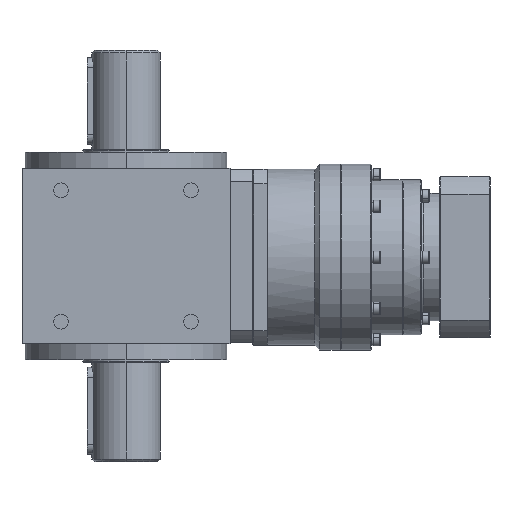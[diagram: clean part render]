
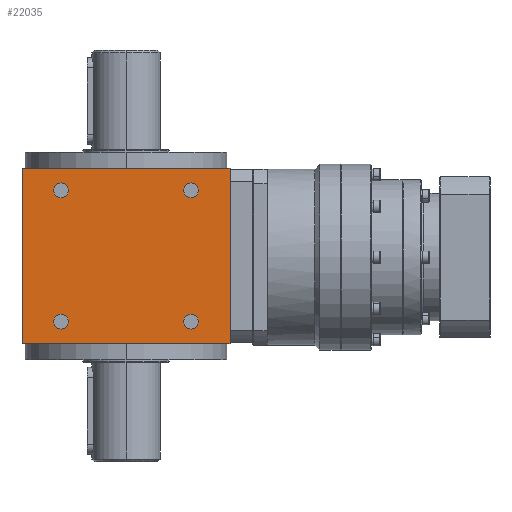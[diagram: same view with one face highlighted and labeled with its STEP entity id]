
A CAD part, left-side view. The second image highlights one B-rep face of the part: STEP entity #22035.
In plain terms, the highlighted planar face has unit normal (-1, 0, 0).
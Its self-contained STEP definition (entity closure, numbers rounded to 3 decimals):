
#460 = CIRCLE ( 'NONE', #41153, 6. ) ;
#860 = EDGE_CURVE ( 'NONE', #38967, #33082, #2213, .T. ) ;
#861 = ORIENTED_EDGE ( 'NONE', *, *, #26887, .F. ) ;
#1719 = VERTEX_POINT ( 'NONE', #48356 ) ;
#2213 = CIRCLE ( 'NONE', #8602, 6. ) ;
#2235 = CARTESIAN_POINT ( 'NONE',  ( -84., 58.5, -53. ) ) ;
#2293 = VECTOR ( 'NONE', #3459, 1000. ) ;
#2388 = VERTEX_POINT ( 'NONE', #3075 ) ;
#2501 = CARTESIAN_POINT ( 'NONE',  ( -84., 52.5, -53. ) ) ;
#2599 = ORIENTED_EDGE ( 'NONE', *, *, #19721, .T. ) ;
#2892 = DIRECTION ( 'NONE',  ( -1., 0., 0. ) ) ;
#3067 = DIRECTION ( 'NONE',  ( 0., -1., 0. ) ) ;
#3075 = CARTESIAN_POINT ( 'NONE',  ( -84., -58.5, 53. ) ) ;
#3097 = VECTOR ( 'NONE', #32382, 1000. ) ;
#3176 = LINE ( 'NONE', #17691, #3097 ) ;
#3332 = CARTESIAN_POINT ( 'NONE',  ( -84., -52.5, 53. ) ) ;
#3459 = DIRECTION ( 'NONE',  ( 0., 0., 1. ) ) ;
#3577 = DIRECTION ( 'NONE',  ( 0., -1., 0. ) ) ;
#4280 = CARTESIAN_POINT ( 'NONE',  ( -84., 0., -71. ) ) ;
#4565 = CARTESIAN_POINT ( 'NONE',  ( -84., -46.5, 53. ) ) ;
#5181 = DIRECTION ( 'NONE',  ( 1., 0., 0. ) ) ;
#5364 = CARTESIAN_POINT ( 'NONE',  ( -84., 52.5, 53. ) ) ;
#5378 = VERTEX_POINT ( 'NONE', #25313 ) ;
#5938 = DIRECTION ( 'NONE',  ( 1., 0., 0. ) ) ;
#6315 = AXIS2_PLACEMENT_3D ( 'NONE', #29256, #25053, #25795 ) ;
#7685 = EDGE_CURVE ( 'NONE', #12544, #1719, #9965, .T. ) ;
#8017 = ORIENTED_EDGE ( 'NONE', *, *, #29160, .T. ) ;
#8602 = AXIS2_PLACEMENT_3D ( 'NONE', #24900, #5181, #40123 ) ;
#8980 = CARTESIAN_POINT ( 'NONE',  ( -84., -46.5, -53. ) ) ;
#9070 = EDGE_LOOP ( 'NONE', ( #26934, #12296 ) ) ;
#9303 = EDGE_CURVE ( 'NONE', #2388, #39550, #460, .T. ) ;
#9965 = CIRCLE ( 'NONE', #26659, 6. ) ;
#12042 = CIRCLE ( 'NONE', #48701, 6. ) ;
#12296 = ORIENTED_EDGE ( 'NONE', *, *, #860, .T. ) ;
#12544 = VERTEX_POINT ( 'NONE', #17492 ) ;
#12561 = CARTESIAN_POINT ( 'NONE',  ( -84., -52.5, -53. ) ) ;
#12749 = AXIS2_PLACEMENT_3D ( 'NONE', #13390, #2892, #36107 ) ;
#13077 = DIRECTION ( 'NONE',  ( 1., 0., 0. ) ) ;
#13390 = CARTESIAN_POINT ( 'NONE',  ( -84., 84., -71. ) ) ;
#13401 = AXIS2_PLACEMENT_3D ( 'NONE', #16834, #46740, #32273 ) ;
#15102 = EDGE_CURVE ( 'NONE', #39678, #5378, #22559, .T. ) ;
#15531 = LINE ( 'NONE', #4280, #39149 ) ;
#16834 = CARTESIAN_POINT ( 'NONE',  ( -84., -52.5, -53. ) ) ;
#16944 = ORIENTED_EDGE ( 'NONE', *, *, #43136, .T. ) ;
#17492 = CARTESIAN_POINT ( 'NONE',  ( -84., 46.5, 53. ) ) ;
#17691 = CARTESIAN_POINT ( 'NONE',  ( -84., -84., -71. ) ) ;
#17755 = EDGE_CURVE ( 'NONE', #39550, #2388, #12042, .T. ) ;
#18216 = VERTEX_POINT ( 'NONE', #47778 ) ;
#18726 = DIRECTION ( 'NONE',  ( 1., 0., 0. ) ) ;
#19384 = AXIS2_PLACEMENT_3D ( 'NONE', #2501, #18726, #21988 ) ;
#19721 = EDGE_CURVE ( 'NONE', #30878, #39601, #42032, .T. ) ;
#21408 = CARTESIAN_POINT ( 'NONE',  ( -84., -52.5, 53. ) ) ;
#21644 = FACE_BOUND ( 'NONE', #44372, .T. ) ;
#21898 = FACE_BOUND ( 'NONE', #9070, .T. ) ;
#21988 = DIRECTION ( 'NONE',  ( 0., -1., 0. ) ) ;
#22035 = ADVANCED_FACE ( 'NONE', ( #27856, #25622, #24881, #21644, #21898 ), #40592, .T. ) ;
#22437 = LINE ( 'NONE', #37659, #2293 ) ;
#22460 = ORIENTED_EDGE ( 'NONE', *, *, #15102, .F. ) ;
#22559 = LINE ( 'NONE', #26529, #31071 ) ;
#22846 = ORIENTED_EDGE ( 'NONE', *, *, #17755, .T. ) ;
#24881 = FACE_BOUND ( 'NONE', #31663, .T. ) ;
#24900 = CARTESIAN_POINT ( 'NONE',  ( -84., 52.5, -53. ) ) ;
#25053 = DIRECTION ( 'NONE',  ( 1., 0., 0. ) ) ;
#25215 = ORIENTED_EDGE ( 'NONE', *, *, #29848, .F. ) ;
#25313 = CARTESIAN_POINT ( 'NONE',  ( -84., -84., 71. ) ) ;
#25389 = DIRECTION ( 'NONE',  ( 0., -1., 0. ) ) ;
#25622 = FACE_BOUND ( 'NONE', #31940, .T. ) ;
#25740 = CIRCLE ( 'NONE', #19384, 6. ) ;
#25795 = DIRECTION ( 'NONE',  ( 0., -1., 0. ) ) ;
#25828 = EDGE_LOOP ( 'NONE', ( #861, #8017, #25215, #22460 ) ) ;
#26529 = CARTESIAN_POINT ( 'NONE',  ( -84., 0., 71. ) ) ;
#26659 = AXIS2_PLACEMENT_3D ( 'NONE', #5364, #28562, #43793 ) ;
#26887 = EDGE_CURVE ( 'NONE', #46986, #39678, #22437, .T. ) ;
#26934 = ORIENTED_EDGE ( 'NONE', *, *, #47931, .T. ) ;
#27856 = FACE_OUTER_BOUND ( 'NONE', #25828, .T. ) ;
#28562 = DIRECTION ( 'NONE',  ( 1., 0., 0. ) ) ;
#29160 = EDGE_CURVE ( 'NONE', #46986, #18216, #15531, .T. ) ;
#29256 = CARTESIAN_POINT ( 'NONE',  ( -84., 52.5, 53. ) ) ;
#29848 = EDGE_CURVE ( 'NONE', #5378, #18216, #3176, .T. ) ;
#30721 = DIRECTION ( 'NONE',  ( 0., -1., 0. ) ) ;
#30855 = AXIS2_PLACEMENT_3D ( 'NONE', #12561, #13077, #43271 ) ;
#30878 = VERTEX_POINT ( 'NONE', #8980 ) ;
#31071 = VECTOR ( 'NONE', #3067, 1000. ) ;
#31663 = EDGE_LOOP ( 'NONE', ( #34543, #22846 ) ) ;
#31940 = EDGE_LOOP ( 'NONE', ( #42939, #16944 ) ) ;
#32273 = DIRECTION ( 'NONE',  ( 0., -1., 0. ) ) ;
#32382 = DIRECTION ( 'NONE',  ( 0., 0., -1. ) ) ;
#33082 = VERTEX_POINT ( 'NONE', #46513 ) ;
#33106 = EDGE_CURVE ( 'NONE', #39601, #30878, #47642, .T. ) ;
#33789 = DIRECTION ( 'NONE',  ( 1., 0., 0. ) ) ;
#34543 = ORIENTED_EDGE ( 'NONE', *, *, #9303, .T. ) ;
#36107 = DIRECTION ( 'NONE',  ( 0., -1., 0. ) ) ;
#37659 = CARTESIAN_POINT ( 'NONE',  ( -84., 84., -71. ) ) ;
#38648 = ORIENTED_EDGE ( 'NONE', *, *, #33106, .T. ) ;
#38967 = VERTEX_POINT ( 'NONE', #2235 ) ;
#38968 = CIRCLE ( 'NONE', #6315, 6. ) ;
#39149 = VECTOR ( 'NONE', #30721, 1000. ) ;
#39550 = VERTEX_POINT ( 'NONE', #4565 ) ;
#39601 = VERTEX_POINT ( 'NONE', #42759 ) ;
#39678 = VERTEX_POINT ( 'NONE', #40270 ) ;
#40123 = DIRECTION ( 'NONE',  ( 0., -1., 0. ) ) ;
#40270 = CARTESIAN_POINT ( 'NONE',  ( -84., 84., 71. ) ) ;
#40592 = PLANE ( 'NONE',  #12749 ) ;
#41153 = AXIS2_PLACEMENT_3D ( 'NONE', #3332, #33789, #3577 ) ;
#42032 = CIRCLE ( 'NONE', #30855, 6. ) ;
#42759 = CARTESIAN_POINT ( 'NONE',  ( -84., -58.5, -53. ) ) ;
#42939 = ORIENTED_EDGE ( 'NONE', *, *, #7685, .T. ) ;
#43136 = EDGE_CURVE ( 'NONE', #1719, #12544, #38968, .T. ) ;
#43271 = DIRECTION ( 'NONE',  ( 0., -1., 0. ) ) ;
#43329 = CARTESIAN_POINT ( 'NONE',  ( -84., 84., -71. ) ) ;
#43793 = DIRECTION ( 'NONE',  ( 0., -1., 0. ) ) ;
#44372 = EDGE_LOOP ( 'NONE', ( #38648, #2599 ) ) ;
#46513 = CARTESIAN_POINT ( 'NONE',  ( -84., 46.5, -53. ) ) ;
#46740 = DIRECTION ( 'NONE',  ( 1., 0., 0. ) ) ;
#46986 = VERTEX_POINT ( 'NONE', #43329 ) ;
#47642 = CIRCLE ( 'NONE', #13401, 6. ) ;
#47778 = CARTESIAN_POINT ( 'NONE',  ( -84., -84., -71. ) ) ;
#47931 = EDGE_CURVE ( 'NONE', #33082, #38967, #25740, .T. ) ;
#48356 = CARTESIAN_POINT ( 'NONE',  ( -84., 58.5, 53. ) ) ;
#48701 = AXIS2_PLACEMENT_3D ( 'NONE', #21408, #5938, #25389 ) ;
